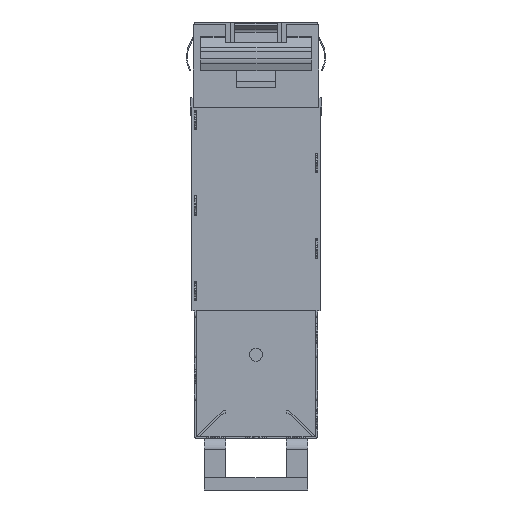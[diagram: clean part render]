
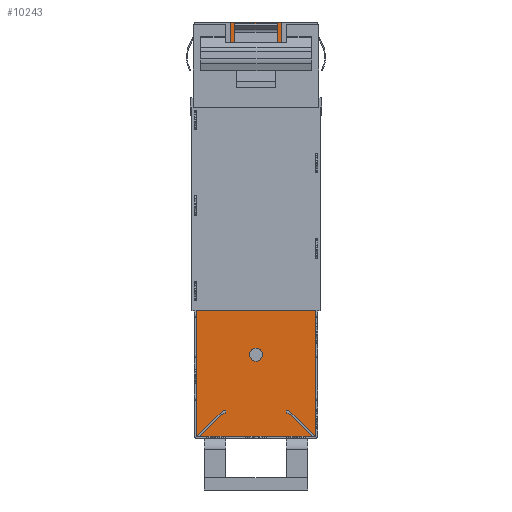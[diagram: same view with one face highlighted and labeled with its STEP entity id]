
A CAD part, front view. The second image highlights one B-rep face of the part: STEP entity #10243.
In plain terms, the highlighted planar face has unit normal (0, -1, 0).
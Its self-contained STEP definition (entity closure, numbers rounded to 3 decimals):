
#238 = CARTESIAN_POINT ( 'NONE',  ( 0., 9.2, -21.725 ) ) ;
#903 = AXIS2_PLACEMENT_3D ( 'NONE', #18442, #12271, #16899 ) ;
#1525 = CARTESIAN_POINT ( 'NONE',  ( 7., 9.2, 0. ) ) ;
#1821 = EDGE_CURVE ( 'NONE', #6301, #13175, #8785, .T. ) ;
#2102 = EDGE_CURVE ( 'NONE', #3318, #7165, #3459, .T. ) ;
#2220 = FACE_BOUND ( 'NONE', #11361, .T. ) ;
#2317 = EDGE_CURVE ( 'NONE', #18406, #3415, #7315, .T. ) ;
#2703 = FACE_BOUND ( 'NONE', #14379, .T. ) ;
#2720 = VECTOR ( 'NONE', #10953, 1000. ) ;
#2922 = EDGE_CURVE ( 'NONE', #4913, #5739, #7995, .T. ) ;
#3318 = VERTEX_POINT ( 'NONE', #15251 ) ;
#3358 = DIRECTION ( 'NONE',  ( 0., 1., 0. ) ) ;
#3415 = VERTEX_POINT ( 'NONE', #19284 ) ;
#3446 = EDGE_CURVE ( 'NONE', #13175, #6301, #14308, .T. ) ;
#3459 = LINE ( 'NONE', #15945, #15339 ) ;
#4396 = AXIS2_PLACEMENT_3D ( 'NONE', #15707, #15904, #15834 ) ;
#4913 = VERTEX_POINT ( 'NONE', #13882 ) ;
#4945 = DIRECTION ( 'NONE',  ( -1., 0., 0. ) ) ;
#5739 = VERTEX_POINT ( 'NONE', #8677 ) ;
#6038 = DIRECTION ( 'NONE',  ( 0., 0., 1. ) ) ;
#6170 = LINE ( 'NONE', #10726, #18056 ) ;
#6270 = CARTESIAN_POINT ( 'NONE',  ( 7., 9.2, 0. ) ) ;
#6301 = VERTEX_POINT ( 'NONE', #238 ) ;
#6302 = FACE_OUTER_BOUND ( 'NONE', #17256, .T. ) ;
#6362 = LINE ( 'NONE', #17492, #14638 ) ;
#6497 = ORIENTED_EDGE ( 'NONE', *, *, #8903, .F. ) ;
#6589 = ORIENTED_EDGE ( 'NONE', *, *, #1821, .T. ) ;
#7165 = VERTEX_POINT ( 'NONE', #15247 ) ;
#7315 = LINE ( 'NONE', #6270, #2720 ) ;
#7748 = DIRECTION ( 'NONE',  ( 0., 0., 1. ) ) ;
#7841 = DIRECTION ( 'NONE',  ( 0., 1., 0. ) ) ;
#7880 = EDGE_CURVE ( 'NONE', #3318, #18406, #6170, .T. ) ;
#7886 = ORIENTED_EDGE ( 'NONE', *, *, #2317, .T. ) ;
#7982 = CIRCLE ( 'NONE', #15875, 0.75 ) ;
#7995 = CIRCLE ( 'NONE', #8182, 0.75 ) ;
#8182 = AXIS2_PLACEMENT_3D ( 'NONE', #10308, #14804, #7748 ) ;
#8677 = CARTESIAN_POINT ( 'NONE',  ( 0., 9.2, -38.225 ) ) ;
#8785 = CIRCLE ( 'NONE', #903, 0.75 ) ;
#8884 = CARTESIAN_POINT ( 'NONE',  ( 0., 9.2, -20.225 ) ) ;
#8903 = EDGE_CURVE ( 'NONE', #7165, #3415, #6362, .T. ) ;
#9237 = AXIS2_PLACEMENT_3D ( 'NONE', #9505, #3358, #14192 ) ;
#9505 = CARTESIAN_POINT ( 'NONE',  ( 7., 9.2, -65.366 ) ) ;
#9826 = ORIENTED_EDGE ( 'NONE', *, *, #2102, .F. ) ;
#10243 = ADVANCED_FACE ( 'NONE', ( #2703, #2220, #6302 ), #15671, .F. ) ;
#10308 = CARTESIAN_POINT ( 'NONE',  ( 0., 9.2, -38.975 ) ) ;
#10726 = CARTESIAN_POINT ( 'NONE',  ( 7., 9.2, -65.366 ) ) ;
#10752 = EDGE_CURVE ( 'NONE', #5739, #4913, #7982, .T. ) ;
#10953 = DIRECTION ( 'NONE',  ( -1., 0., 0. ) ) ;
#11361 = EDGE_LOOP ( 'NONE', ( #17078, #17248 ) ) ;
#12271 = DIRECTION ( 'NONE',  ( 0., 1., 0. ) ) ;
#13175 = VERTEX_POINT ( 'NONE', #8884 ) ;
#13882 = CARTESIAN_POINT ( 'NONE',  ( 0., 9.2, -39.725 ) ) ;
#14192 = DIRECTION ( 'NONE',  ( 0., 0., 1. ) ) ;
#14308 = CIRCLE ( 'NONE', #4396, 0.75 ) ;
#14379 = EDGE_LOOP ( 'NONE', ( #19872, #6589 ) ) ;
#14638 = VECTOR ( 'NONE', #18773, 1000. ) ;
#14804 = DIRECTION ( 'NONE',  ( 0., 1., 0. ) ) ;
#15247 = CARTESIAN_POINT ( 'NONE',  ( -7., 9.2, -48.5 ) ) ;
#15251 = CARTESIAN_POINT ( 'NONE',  ( 7., 9.2, -48.5 ) ) ;
#15339 = VECTOR ( 'NONE', #4945, 1000. ) ;
#15671 = PLANE ( 'NONE',  #9237 ) ;
#15707 = CARTESIAN_POINT ( 'NONE',  ( 0., 9.2, -20.975 ) ) ;
#15834 = DIRECTION ( 'NONE',  ( 0., 0., 1. ) ) ;
#15875 = AXIS2_PLACEMENT_3D ( 'NONE', #17137, #7841, #18689 ) ;
#15904 = DIRECTION ( 'NONE',  ( 0., 1., 0. ) ) ;
#15945 = CARTESIAN_POINT ( 'NONE',  ( 7., 9.2, -48.5 ) ) ;
#16899 = DIRECTION ( 'NONE',  ( 0., 0., 1. ) ) ;
#17078 = ORIENTED_EDGE ( 'NONE', *, *, #10752, .T. ) ;
#17137 = CARTESIAN_POINT ( 'NONE',  ( 0., 9.2, -38.975 ) ) ;
#17248 = ORIENTED_EDGE ( 'NONE', *, *, #2922, .T. ) ;
#17256 = EDGE_LOOP ( 'NONE', ( #18807, #7886, #6497, #9826 ) ) ;
#17492 = CARTESIAN_POINT ( 'NONE',  ( -7., 9.2, -65.366 ) ) ;
#18056 = VECTOR ( 'NONE', #6038, 1000. ) ;
#18406 = VERTEX_POINT ( 'NONE', #1525 ) ;
#18442 = CARTESIAN_POINT ( 'NONE',  ( 0., 9.2, -20.975 ) ) ;
#18689 = DIRECTION ( 'NONE',  ( 0., 0., 1. ) ) ;
#18773 = DIRECTION ( 'NONE',  ( 0., 0., 1. ) ) ;
#18807 = ORIENTED_EDGE ( 'NONE', *, *, #7880, .T. ) ;
#19284 = CARTESIAN_POINT ( 'NONE',  ( -7., 9.2, 0. ) ) ;
#19872 = ORIENTED_EDGE ( 'NONE', *, *, #3446, .T. ) ;
